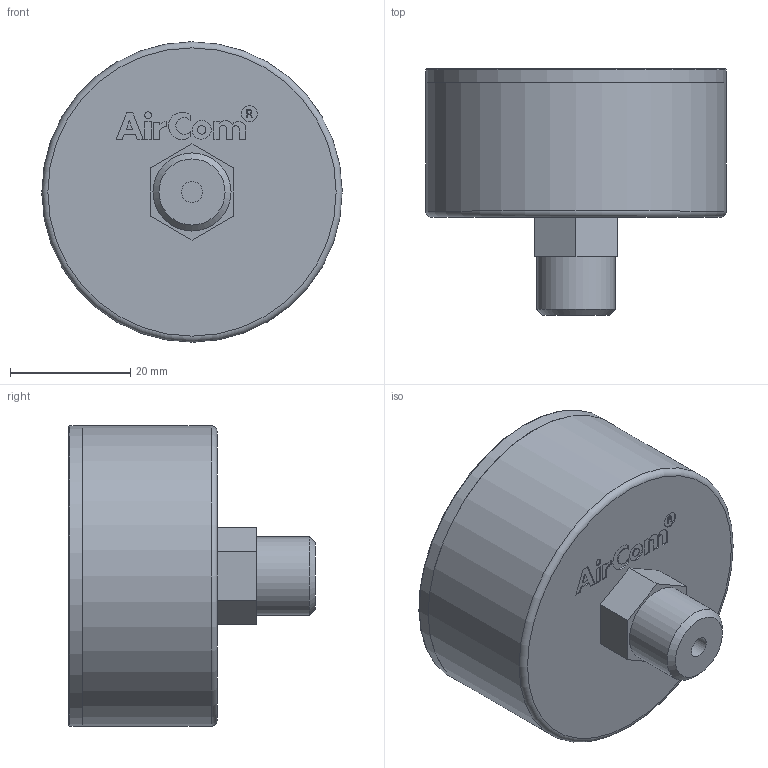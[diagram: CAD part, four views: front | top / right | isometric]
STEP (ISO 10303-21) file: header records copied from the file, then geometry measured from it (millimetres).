
FILE_DESCRIPTION((''),'2;1');
FILE_NAME('U:\AirCom-Produktdokumentation\Druckmessgeraete\MA5001\Zeichnungen\CAD-Aircom\3D\B-MA5001-01.stp','2014-01-28T15:12:55',('Frank Schroers'),(''),'Autodesk Inventor 2008','Autodesk Inventor 2008','');
FILE_SCHEMA(('AUTOMOTIVE_DESIGN { 1 0 10303 214 1 1 1 1 }'));
Length unit declared in the file: millimetre
Products named in the file (3): B-MA5001-01; B-MA5001-01-Deckel; B-MA5001-01-Gehause
Assembly tree (2 placements, depth 2):
  B-MA5001-01
    B-MA5001-01-Deckel
    B-MA5001-01-Gehause
Bounding box: 50 x 41.08 x 50 mm (x, y, z)
Volume: 47666.6 mm3; surface area: 13706.9 mm2
Topology: 2 solids, 2 shells, 98 faces, 224 edges, 148 vertices
Faces by surface type: plane 73, cylinder 19, cone 2, torus 2, bspline 2
Full cylindrical faces by diameter (mm): 1.132 x1, 2.634 x1, 3.5 x1, 13 x1, 38.5 x1, 48 x1, 49 x1, 50 x2
Entity records: 2782 total; most frequent: CARTESIAN_POINT 494, DIRECTION 457, ORIENTED_EDGE 418, EDGE_CURVE 209, VECTOR 163, LINE 163, VERTEX_POINT 148, AXIS2_PLACEMENT_3D 147
